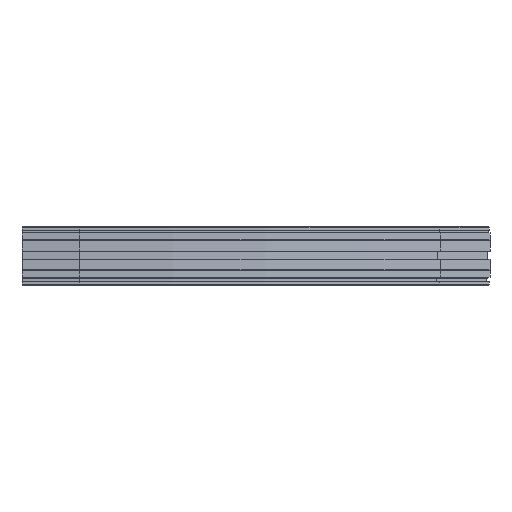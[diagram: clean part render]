
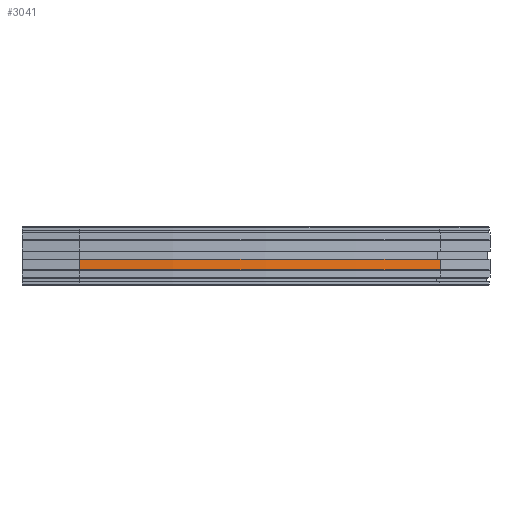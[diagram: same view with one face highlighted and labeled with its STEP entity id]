
A CAD part, front view. The second image highlights one B-rep face of the part: STEP entity #3041.
In plain terms, the highlighted cylindrical face has radius 1012 mm (diameter 2024 mm), a partial arc.
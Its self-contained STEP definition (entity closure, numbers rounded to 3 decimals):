
#29=CYLINDRICAL_SURFACE('',#3222,1012.);
#59=CIRCLE('',#3221,1012.);
#60=CIRCLE('',#3223,1012.);
#229=FACE_OUTER_BOUND('',#399,.T.);
#399=EDGE_LOOP('',(#2278,#2279,#2280,#2281));
#574=LINE('',#4616,#932);
#687=LINE('',#4873,#1045);
#932=VECTOR('',#3503,10.);
#1045=VECTOR('',#3704,10.);
#1286=VERTEX_POINT('',#4609);
#1288=VERTEX_POINT('',#4615);
#1387=VERTEX_POINT('',#4868);
#1388=VERTEX_POINT('',#4872);
#1604=EDGE_CURVE('',#1288,#1286,#574,.T.);
#1724=EDGE_CURVE('',#1387,#1286,#59,.T.);
#1725=EDGE_CURVE('',#1388,#1387,#687,.T.);
#1726=EDGE_CURVE('',#1388,#1288,#60,.T.);
#2278=ORIENTED_EDGE('',*,*,#1725,.T.);
#2279=ORIENTED_EDGE('',*,*,#1724,.T.);
#2280=ORIENTED_EDGE('',*,*,#1604,.F.);
#2281=ORIENTED_EDGE('',*,*,#1726,.F.);
#3041=ADVANCED_FACE('',(#229),#29,.T.);
#3221=AXIS2_PLACEMENT_3D('',#4870,#3700,#3701);
#3222=AXIS2_PLACEMENT_3D('',#4871,#3702,#3703);
#3223=AXIS2_PLACEMENT_3D('',#4874,#3705,#3706);
#3503=DIRECTION('',(0.,0.,-1.));
#3700=DIRECTION('center_axis',(0.,0.,1.));
#3701=DIRECTION('ref_axis',(0.,-1.,0.));
#3702=DIRECTION('center_axis',(0.,0.,1.));
#3703=DIRECTION('ref_axis',(0.,-1.,0.));
#3704=DIRECTION('',(0.,0.,-1.));
#3705=DIRECTION('center_axis',(0.,0.,1.));
#3706=DIRECTION('ref_axis',(0.,-1.,0.));
#4609=CARTESIAN_POINT('',(506.,23.582,-60.));
#4615=CARTESIAN_POINT('',(506.,23.582,-45.));
#4616=CARTESIAN_POINT('',(506.,23.582,-60.));
#4868=CARTESIAN_POINT('',(0.,-112.,-60.));
#4870=CARTESIAN_POINT('Origin',(0.,900.,-60.));
#4871=CARTESIAN_POINT('Origin',(0.,900.,-52.5));
#4872=CARTESIAN_POINT('',(0.,-112.,-45.));
#4873=CARTESIAN_POINT('',(0.,-112.,-60.));
#4874=CARTESIAN_POINT('Origin',(0.,900.,-45.));
